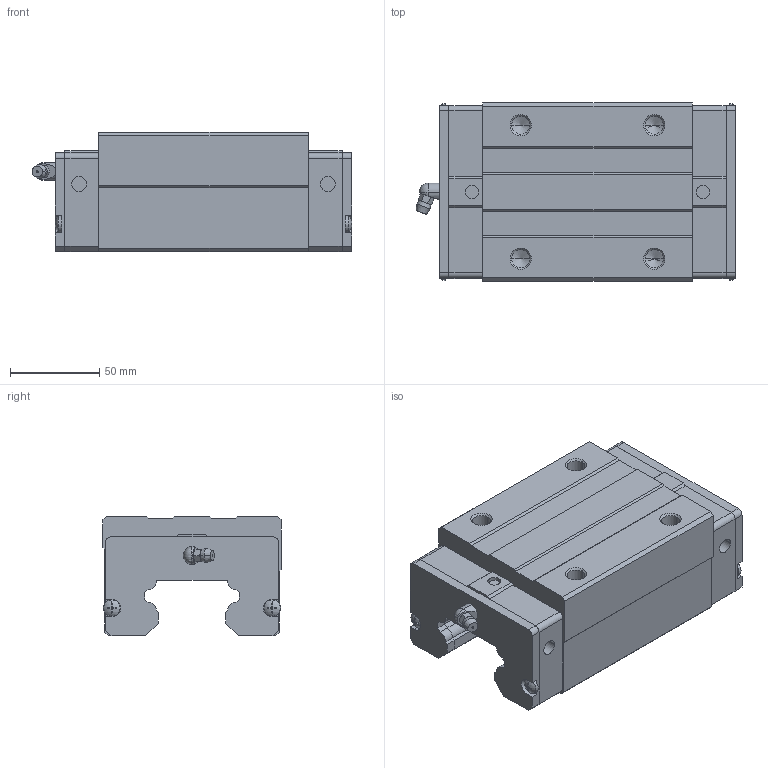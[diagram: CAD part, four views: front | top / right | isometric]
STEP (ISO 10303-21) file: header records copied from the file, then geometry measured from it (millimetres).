
FILE_DESCRIPTION(('starvars output'),'2;1');
FILE_NAME('cv20190617061338000011329.stp','06:13:38 2019/06/17',( 'Thomas Industrial Network Germany GmbH'),( 'Thomas Industrial Network Germany GmbH'),'unknown preprocess','ACIS' ,'unknown authorization');
FILE_SCHEMA(('CONFIG_CONTROL_DESIGN {UNKNOWN IMPLEMENTATION LEVEL}'));
Length unit declared in the file: millimetre
Products named in the file (10): PRODUCT_ID_1; PRODUCT_ID_2; PRODUCT_ID_3; PRODUCT_ID_4; PRODUCT_ID_5; PRODUCT_ID_6; PRODUCT_ID_7; PRODUCT_ID_8; PRODUCT_ID_9; PRODUCT_ID_10
Bounding box: 179.6 x 100 x 67 mm (x, y, z)
Volume: 801561.1 mm3; surface area: 114300.9 mm2
Topology: 10 solids, 10 shells, 400 faces, 1017 edges, 643 vertices
Faces by surface type: plane 244, cylinder 74, cone 70, sphere 12
Entity records: 11534 total; most frequent: ORIENTED_EDGE 2010, CARTESIAN_POINT 1899, DIRECTION 1587, EDGE_CURVE 1005, VERTEX_POINT 643, VECTOR 637, LINE 637, AXIS2_PLACEMENT_3D 475
